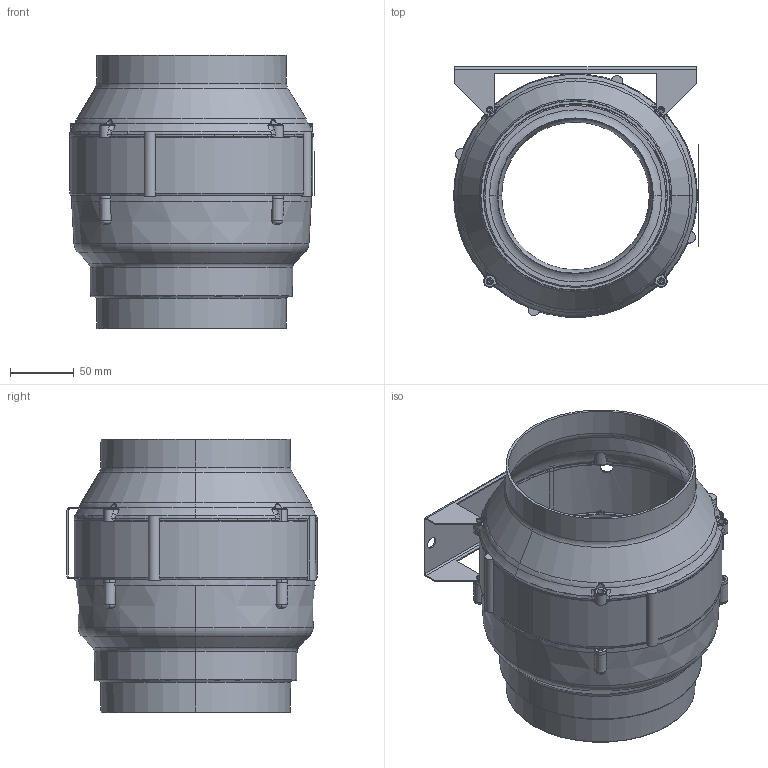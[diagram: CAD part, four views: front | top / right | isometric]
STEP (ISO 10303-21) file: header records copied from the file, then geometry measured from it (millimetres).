
FILE_DESCRIPTION (( 'STEP AP203' ), '1' );
FILE_NAME ('122229-01_EL150E2M01.STEP', '2013-10-07T07:43:35', ( '' ), ( '' ), 'SwSTEP 2.0', 'SolidWorks 2012', '' );
FILE_SCHEMA (( 'CONFIG_CONTROL_DESIGN' ));
Length unit declared in the file: millimetre
Products named in the file (1): 122229-01_EL150E2M01
Bounding box: 192.37 x 196.66 x 215 mm (x, y, z)
Surface area: 299598.3 mm2 (no closed solid volume)
Topology: 0 solids, 17 shells, 391 faces, 1406 edges, 1013 vertices
Faces by surface type: cylinder 106, plane 81, torus 74, bspline 68, cone 62
Entity records: 20663 total; most frequent: CARTESIAN_POINT 9376, ORIENTED_EDGE 2301, DIRECTION 2200, EDGE_CURVE 1404, VERTEX_POINT 1013, AXIS2_PLACEMENT_3D 920, CIRCLE 596, EDGE_LOOP 442
